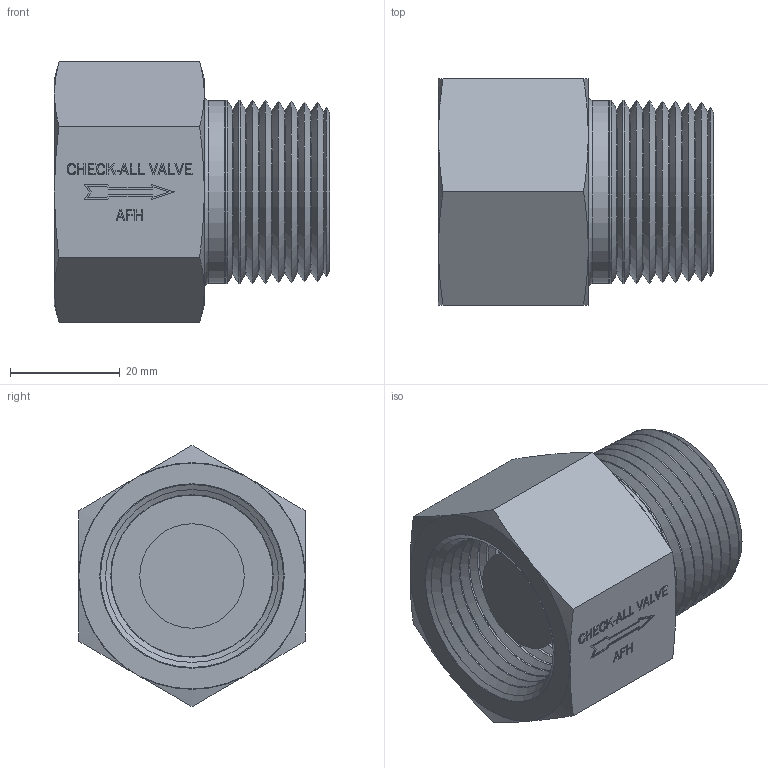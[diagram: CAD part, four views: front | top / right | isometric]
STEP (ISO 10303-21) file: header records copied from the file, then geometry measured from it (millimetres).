
FILE_DESCRIPTION(/* description */ ('Unknown'),/* implementation_level */ '2;1');
FILE_NAME(/* name */ 'AFHXXOR.500XX-WEB',/* time_stamp */ '2022-10-03T11:37:11-05:00',/* author */ ('Unknown'),/* organization */ ('Unknown'),/* preprocessor_version */ 'ST-DEVELOPER v18.102',/* originating_system */ 'Solid Edge',/* authorisation */ 'Unknown');
FILE_SCHEMA (('AUTOMOTIVE_DESIGN {1 0 10303 214 3 1 1}'));
Length unit declared in the file: inch
Products named in the file (1): AFHXXOR.500XX-WEB
Bounding box: 50.19 x 41.27 x 47.66 mm (x, y, z)
Volume: 44792.1 mm3; surface area: 14325.9 mm2
Topology: 1 solids, 1 shells, 331 faces, 818 edges, 516 vertices
Faces by surface type: plane 202, cone 73, cylinder 36, torus 16, bspline 4
Full cylindrical faces by diameter (mm): 15.062 x1, 19.05 x1, 26.187 x1, 29.491 x6, 33.401 x3
Entity records: 11503 total; most frequent: CARTESIAN_POINT 2204, ORIENTED_EDGE 1442, DIRECTION 1236, EDGE_CURVE 721, VERTEX_POINT 496, EDGE_LOOP 435, FACE_BOUND 435, AXIS2_PLACEMENT_3D 434
